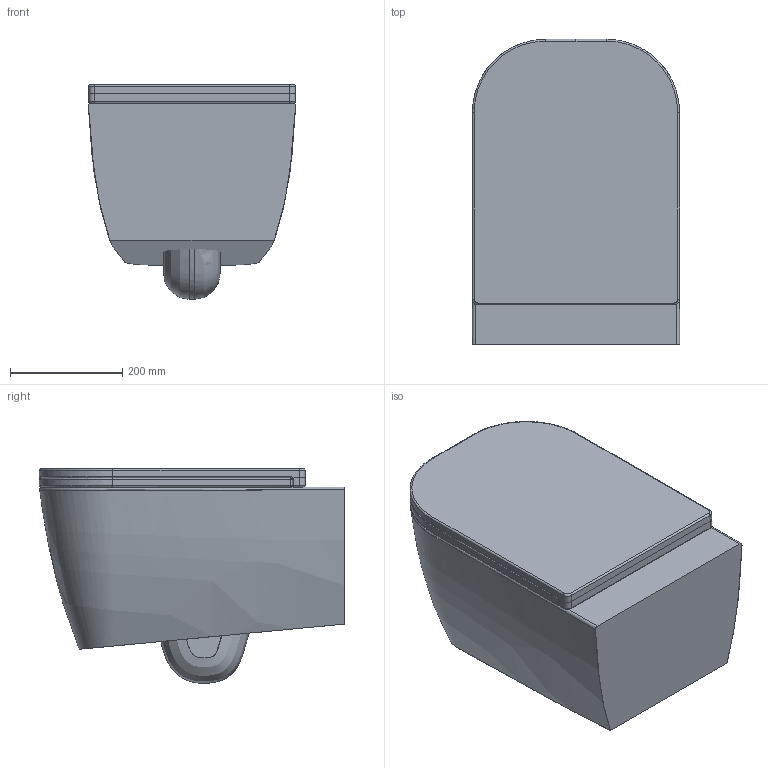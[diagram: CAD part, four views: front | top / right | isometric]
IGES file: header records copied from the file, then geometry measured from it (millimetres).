
Global section: file name: D:\Desktop\GIOVANNI\SCHEDE PRODOTTO\SANITARI\WQUADRO\WQUADRO RIMLESS.igs; native system: Rhinoceros ( Jan 17 2018 ); preprocessor: Trout Lake IGES 012 Jan 17 2018; date: 230523.123113; units: millimetre
Bounding box: 370.09 x 545.02 x 383.06 mm (x, y, z)
Surface area: 1526141.8 mm2 (no closed solid volume)
Topology: 0 solids, 0 shells, 90 faces, 1102 edges, 1102 vertices
Faces by surface type: bspline 90
